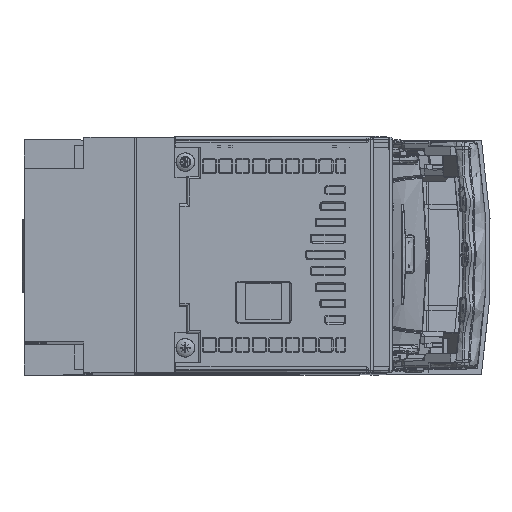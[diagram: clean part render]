
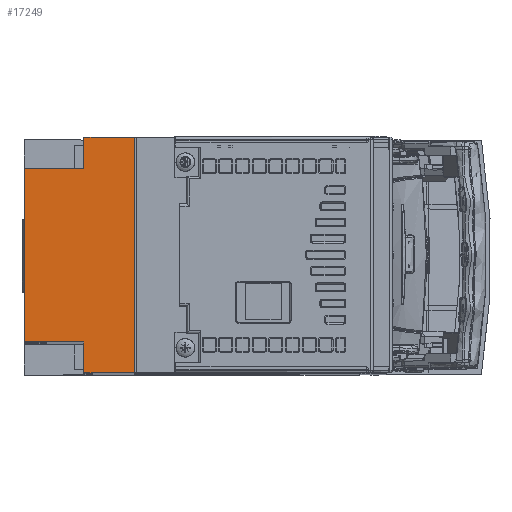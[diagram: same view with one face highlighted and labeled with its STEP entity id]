
A CAD part, top view. The second image highlights one B-rep face of the part: STEP entity #17249.
In plain terms, the highlighted planar face has unit normal (0, 0, 1).
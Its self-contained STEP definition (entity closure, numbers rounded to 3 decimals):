
#17249=ADVANCED_FACE('',(#28609),#25338,.F.);
#25338=PLANE('',#142185);
#28609=FACE_OUTER_BOUND('',#36575,.T.);
#36575=EDGE_LOOP('',(#45512,#45513,#45514,#45515,#45516,#45517,#45518,#45519));
#45512=ORIENTED_EDGE('',*,*,#101153,.T.);
#45513=ORIENTED_EDGE('',*,*,#101154,.F.);
#45514=ORIENTED_EDGE('',*,*,#101155,.F.);
#45515=ORIENTED_EDGE('',*,*,#101156,.F.);
#45516=ORIENTED_EDGE('',*,*,#101157,.F.);
#45517=ORIENTED_EDGE('',*,*,#101158,.F.);
#45518=ORIENTED_EDGE('',*,*,#101159,.F.);
#45519=ORIENTED_EDGE('',*,*,#101160,.F.);
#87738=VERTEX_POINT('',#182766);
#87739=VERTEX_POINT('',#182767);
#87740=VERTEX_POINT('',#182769);
#87741=VERTEX_POINT('',#182771);
#87742=VERTEX_POINT('',#182773);
#87743=VERTEX_POINT('',#182775);
#87744=VERTEX_POINT('',#182777);
#87745=VERTEX_POINT('',#182779);
#101153=EDGE_CURVE('',#87738,#87739,#122167,.T.);
#101154=EDGE_CURVE('',#87740,#87739,#122168,.T.);
#101155=EDGE_CURVE('',#87741,#87740,#122169,.T.);
#101156=EDGE_CURVE('',#87742,#87741,#122170,.T.);
#101157=EDGE_CURVE('',#87743,#87742,#122171,.T.);
#101158=EDGE_CURVE('',#87744,#87743,#122172,.T.);
#101159=EDGE_CURVE('',#87745,#87744,#122173,.T.);
#101160=EDGE_CURVE('',#87738,#87745,#122174,.T.);
#122167=LINE('',#182765,#132035);
#122168=LINE('',#182768,#132036);
#122169=LINE('',#182770,#132037);
#122170=LINE('',#182772,#132038);
#122171=LINE('',#182774,#132039);
#122172=LINE('',#182776,#132040);
#122173=LINE('',#182778,#132041);
#122174=LINE('',#182780,#132042);
#132035=VECTOR('',#152356,1.);
#132036=VECTOR('',#152357,1.);
#132037=VECTOR('',#152358,1.);
#132038=VECTOR('',#152359,1.);
#132039=VECTOR('',#152360,1.);
#132040=VECTOR('',#152361,1.);
#132041=VECTOR('',#152362,1.);
#132042=VECTOR('',#152363,1.);
#142185=AXIS2_PLACEMENT_3D('',#182781,#152364,#152365);
#152356=DIRECTION('',(0.,-1.,0.));
#152357=DIRECTION('',(-1.,0.,0.));
#152358=DIRECTION('',(0.,1.,0.));
#152359=DIRECTION('',(-1.,0.,0.));
#152360=DIRECTION('',(0.,-1.,0.));
#152361=DIRECTION('',(1.,0.,0.));
#152362=DIRECTION('',(0.,1.,0.));
#152363=DIRECTION('',(1.,0.,0.));
#152364=DIRECTION('',(0.,0.,-1.));
#152365=DIRECTION('',(0.,-1.,0.));
#182765=CARTESIAN_POINT('',(0.,49.5,289.7));
#182766=CARTESIAN_POINT('',(0.,36.5,289.7));
#182767=CARTESIAN_POINT('',(0.,-36.5,289.7));
#182768=CARTESIAN_POINT('',(152.,-36.5,289.7));
#182769=CARTESIAN_POINT('',(25.,-36.5,289.7));
#182770=CARTESIAN_POINT('',(25.,49.5,289.7));
#182771=CARTESIAN_POINT('',(25.,-49.5,289.7));
#182772=CARTESIAN_POINT('',(152.,-49.5,289.7));
#182773=CARTESIAN_POINT('',(46.2,-49.5,289.7));
#182774=CARTESIAN_POINT('',(46.2,49.3,289.7));
#182775=CARTESIAN_POINT('',(46.2,49.5,289.7));
#182776=CARTESIAN_POINT('',(152.,49.5,289.7));
#182777=CARTESIAN_POINT('',(25.,49.5,289.7));
#182778=CARTESIAN_POINT('',(25.,-49.5,289.7));
#182779=CARTESIAN_POINT('',(25.,36.5,289.7));
#182780=CARTESIAN_POINT('',(152.,36.5,289.7));
#182781=CARTESIAN_POINT('',(152.,49.5,289.7));
